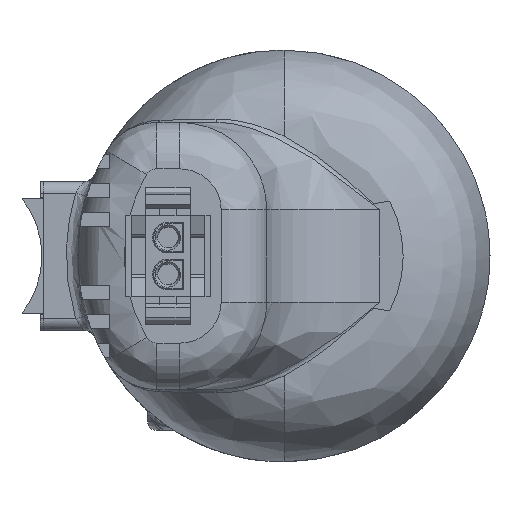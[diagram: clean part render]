
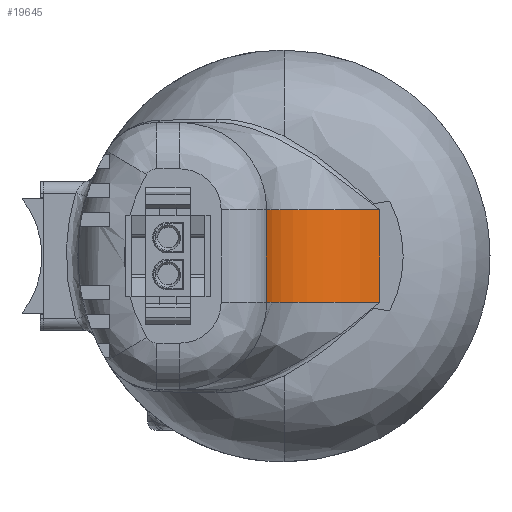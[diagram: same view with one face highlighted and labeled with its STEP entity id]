
A CAD part, front view. The second image highlights one B-rep face of the part: STEP entity #19645.
In plain terms, the highlighted cylindrical face has radius 20 mm (diameter 40 mm), a partial arc.
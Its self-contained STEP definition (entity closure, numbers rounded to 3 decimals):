
#877 = CARTESIAN_POINT ( 'NONE',  ( -3.035, -15.714, 8. ) ) ;
#1491 = VERTEX_POINT ( 'NONE', #2907 ) ;
#2424 = LINE ( 'NONE', #15495, #30115 ) ;
#2616 = EDGE_CURVE ( 'NONE', #24291, #27028, #15379, .T. ) ;
#2907 = CARTESIAN_POINT ( 'NONE',  ( 16.5, 0., -8. ) ) ;
#3263 = ORIENTED_EDGE ( 'NONE', *, *, #2616, .F. ) ;
#5902 = ORIENTED_EDGE ( 'NONE', *, *, #26704, .F. ) ;
#6284 = DIRECTION ( 'NONE',  ( -1., 0., 0. ) ) ;
#6804 = CARTESIAN_POINT ( 'NONE',  ( 16.5, -20., -8. ) ) ;
#7868 = DIRECTION ( 'NONE',  ( 0., 0., 1. ) ) ;
#8014 = VECTOR ( 'NONE', #8975, 1000. ) ;
#8975 = DIRECTION ( 'NONE',  ( 0., 0., 1. ) ) ;
#9152 = ORIENTED_EDGE ( 'NONE', *, *, #12571, .F. ) ;
#9167 = DIRECTION ( 'NONE',  ( 0., 0., -1. ) ) ;
#9176 = DIRECTION ( 'NONE',  ( 1., 0., 0. ) ) ;
#10455 = CARTESIAN_POINT ( 'NONE',  ( 16.5, 0., 8. ) ) ;
#11489 = DIRECTION ( 'NONE',  ( 0., 0., 1. ) ) ;
#11532 = ORIENTED_EDGE ( 'NONE', *, *, #33248, .T. ) ;
#11727 = DIRECTION ( 'NONE',  ( 0., 0., 1. ) ) ;
#12124 = AXIS2_PLACEMENT_3D ( 'NONE', #19496, #9167, #6284 ) ;
#12571 = EDGE_CURVE ( 'NONE', #23704, #24291, #2424, .T. ) ;
#14384 = CARTESIAN_POINT ( 'NONE',  ( 16.5, 0., 0. ) ) ;
#15379 = CIRCLE ( 'NONE', #12124, 20. ) ;
#15495 = CARTESIAN_POINT ( 'NONE',  ( -3.035, -15.714, 0. ) ) ;
#15690 = CYLINDRICAL_SURFACE ( 'NONE', #21657, 20. ) ;
#19331 = CIRCLE ( 'NONE', #24196, 20. ) ;
#19443 = CARTESIAN_POINT ( 'NONE',  ( 16.5, -20., 0. ) ) ;
#19496 = CARTESIAN_POINT ( 'NONE',  ( 16.5, -20., 8. ) ) ;
#19645 = ADVANCED_FACE ( 'NONE', ( #31132 ), #15690, .F. ) ;
#19656 = LINE ( 'NONE', #14384, #8014 ) ;
#21657 = AXIS2_PLACEMENT_3D ( 'NONE', #19443, #11489, #21662 ) ;
#21662 = DIRECTION ( 'NONE',  ( 1., 0., 0. ) ) ;
#23704 = VERTEX_POINT ( 'NONE', #28294 ) ;
#24196 = AXIS2_PLACEMENT_3D ( 'NONE', #6804, #11727, #9176 ) ;
#24291 = VERTEX_POINT ( 'NONE', #877 ) ;
#26704 = EDGE_CURVE ( 'NONE', #1491, #23704, #19331, .T. ) ;
#27028 = VERTEX_POINT ( 'NONE', #10455 ) ;
#28294 = CARTESIAN_POINT ( 'NONE',  ( -3.035, -15.714, -8. ) ) ;
#30115 = VECTOR ( 'NONE', #7868, 1000. ) ;
#31132 = FACE_OUTER_BOUND ( 'NONE', #31407, .T. ) ;
#31407 = EDGE_LOOP ( 'NONE', ( #9152, #5902, #11532, #3263 ) ) ;
#33248 = EDGE_CURVE ( 'NONE', #1491, #27028, #19656, .T. ) ;
